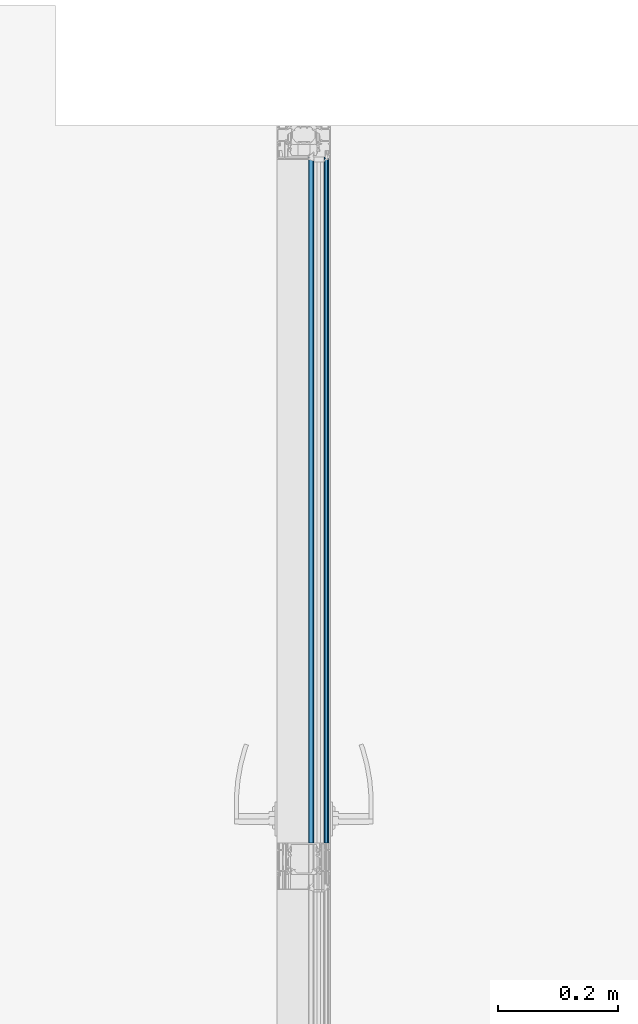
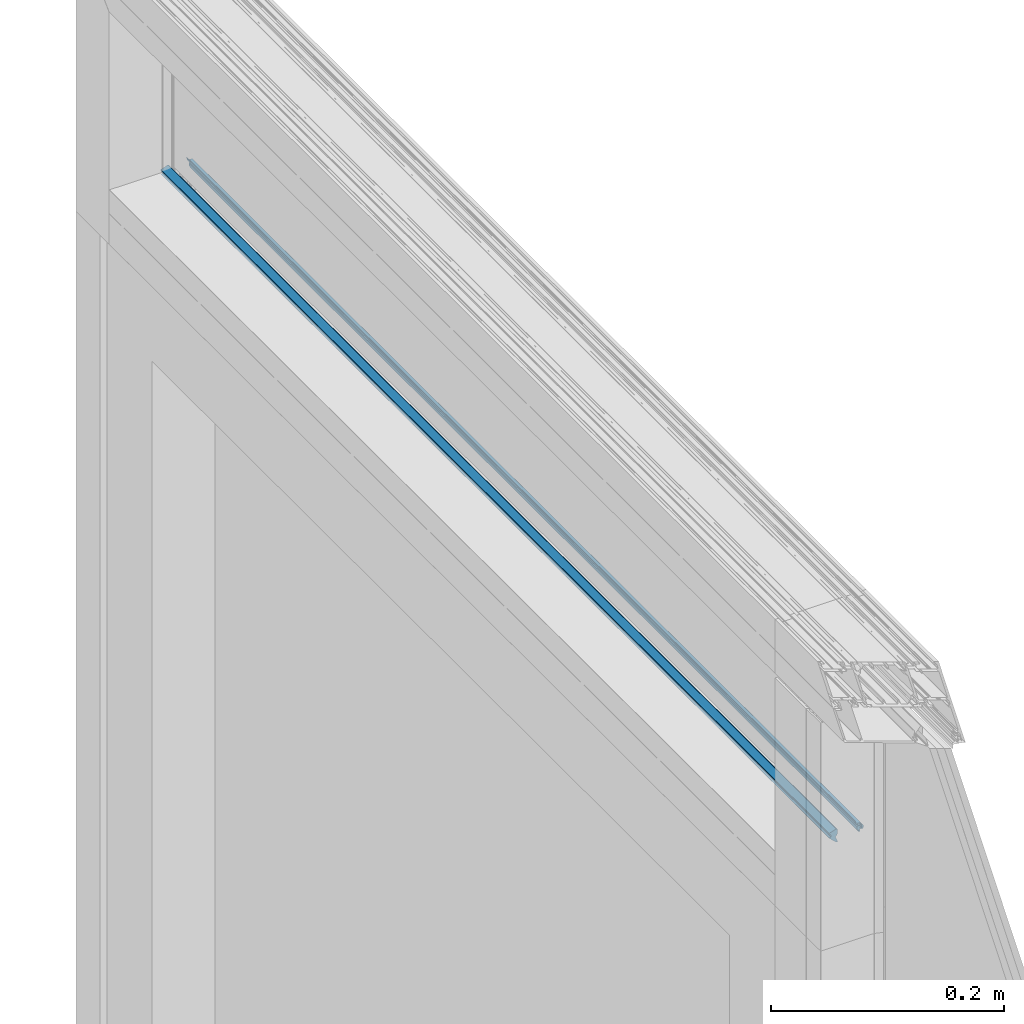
# One storey, part 18 of 65: 1 building element part, 2 elements without a shape of their own.
"""IFC2X3 building model written with IfcOpenShell, lengths in millimetres."""

from ifc_helpers import new_model, entity, si_unit, converted_unit, derived_unit, money_unit, direction, frame, origin_with_axes, place, context, subcontext, project, spatial, faceted_brep, source, transform, mapped, material, type_object, element, aggregate, save


model = new_model("IFC2X3")

# Units and contexts
model_context = context("Model", 3, precision=0.01, world=origin_with_axes(), true_north=direction((0.0, 1.0)))
body_context = subcontext(model_context, "Body", "Model", "MODEL_VIEW")
ifc_project = project(units=[si_unit("LENGTHUNIT", "METRE", prefix="MILLI"), si_unit("AREAUNIT", "SQUARE_METRE"), si_unit("VOLUMEUNIT", "CUBIC_METRE"), converted_unit("PLANEANGLEUNIT", "DEGREE", entity("IfcPlaneAngleMeasure", 0.0174532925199), si_unit("PLANEANGLEUNIT", "RADIAN"), dimensions=[0, 0, 0, 0, 0, 0, 0]), si_unit("SOLIDANGLEUNIT", "STERADIAN"), money_unit("EUR"), converted_unit("TIMEUNIT", "Year", entity("IfcTimeMeasure", 31556926.0), si_unit("TIMEUNIT", "SECOND"), dimensions=[0, 0, 1, 0, 0, 0, 0]), si_unit("MASSUNIT", "GRAM", prefix="KILO"), si_unit("THERMODYNAMICTEMPERATUREUNIT", "DEGREE_CELSIUS"), si_unit("LUMINOUSINTENSITYUNIT", "LUMEN"), si_unit("ENERGYUNIT", "JOULE", prefix="MEGA"), derived_unit("THERMALCONDUCTANCEUNIT", [(si_unit("POWERUNIT", "WATT"), 1), (si_unit("LENGTHUNIT", "METRE"), -1), (si_unit("THERMODYNAMICTEMPERATUREUNIT", "KELVIN"), -1)]), derived_unit("SPECIFICHEATCAPACITYUNIT", [(si_unit("ENERGYUNIT", "JOULE"), 1), (si_unit("MASSUNIT", "GRAM", prefix="KILO"), -1), (si_unit("THERMODYNAMICTEMPERATUREUNIT", "KELVIN"), -1)]), derived_unit("MASSDENSITYUNIT", [(si_unit("MASSUNIT", "GRAM", prefix="KILO"), 1), (si_unit("VOLUMEUNIT", "CUBIC_METRE"), -1)])], contexts=[model_context])

# Site, building, storey
site_placement = place(None, origin_with_axes())
site = spatial("IfcSite", under=ifc_project, at=site_placement, Name="Puškini 31, Narva", CompositionType="ELEMENT")
building_placement = place(site_placement, origin_with_axes())
building = spatial("IfcBuilding", under=site, at=building_placement, Name="Narva Riigigümnaasium", CompositionType="ELEMENT")
storey_placement = place(building_placement, frame((0.0, 0.0, -1320.0), z_axis=(0.0, 0.0, 1.0), x_axis=(1.0, 0.0, 0.0)))
storey = spatial("IfcBuildingStorey", under=building, at=storey_placement, Name="1.korrus -1.32", CompositionType="ELEMENT", Elevation=-1320.0)

# Curtain wall, member, building element part
curtain_wall_type = type_object("IfcCurtainWallType", Name="Curtain Wall Type", PredefinedType="NOTDEFINED")
curtain_wall_placement = place(storey_placement, frame((28354.9542923, 194209.397521, 0.0), z_axis=(0.0, 0.0, 1.0), x_axis=(1.0, 0.0, 0.0)))
curtain_wall = element("IfcCurtainWall", 1, at=curtain_wall_placement, inside=storey, type_object=curtain_wall_type, Name="G-SKLF-07")
member_type = type_object("IfcMemberType", Name="61 x 45", PredefinedType="MULLION")
member_placement = place(curtain_wall_placement, frame((-0.00287447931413, -709.401652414, 2400.0), z_axis=(4.05197719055e-06, 0.999999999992, 0.0), x_axis=(0.0, 0.0, 1.0)))
member = element("IfcMember", 2, at=member_placement, type_object=member_type, Name="G-SKLF-07-raam", ObjectType="MULLION")
aggregate(curtain_wall, [member])
ifc_material = material(Name="Membraan - Veekindel")
shared_shape = source(origin_with_axes(), body_context, "Body", "Brep", [
    faceted_brep([(61.0413385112, 34.3890442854, 0.0), (59.5800222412, 34.73794757, 0.0), (59.5800222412, 34.73794757, 1146.80413105), (61.0413385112, 34.3890442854, 1146.80413105), (61.1536677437, 34.1934467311, 0.0), (61.1423164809, 33.9681748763, 0.0), (61.0108941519, 33.784859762, 0.0), (60.7381535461, 33.9217644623, 0.0), (59.8409257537, 34.1343131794, 0.0), (58.2346494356, 34.5489145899, 0.0), (56.9567944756, 35.6067920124, 0.0), (56.2495873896, 37.1074172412, 0.0), (56.1542959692, 37.3107917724, 0.0), (55.9795989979, 37.4519392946, 0.0), (55.7607444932, 37.5023809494, 0.0), (55.1093263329, 37.5023809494, 0.0), (54.8593263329, 37.4353936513, 0.0), (54.676313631, 37.2523809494, 0.0), (54.2721684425, 36.5523809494, 0.0), (54.0891557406, 36.3693682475, 0.0), (53.8391557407, 36.3023809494, 0.0), (51.602145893, 36.3023809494, 0.0), (51.352145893, 36.3693682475, 0.0), (51.1691331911, 36.5523809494, 0.0), (50.7649880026, 37.2523809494, 0.0), (50.5819753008, 37.4353936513, 0.0), (50.3319753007, 37.5023809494, 0.0), (49.2206527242, 37.5023809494, 0.0), (48.9706527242, 37.5693682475, 0.0), (48.7876400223, 37.7523809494, 0.0), (48.7206527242, 38.0023809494, 0.0), (48.7206527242, 39.1999494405, 0.0), (50.10004, 39.1999494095, 0.0), (50.1670287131, 38.9499497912, 0.0), (50.3500424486, 38.7669381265, 0.0), (50.6000428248, 38.699952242, 0.0), (50.8500424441, 38.7669409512, 0.0), (51.0330541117, 38.9499546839, 0.0), (51.10004, 39.1999550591, 0.0), (51.10004, 40.4999366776, 0.0), (51.0598476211, 40.6499366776, 0.0), (50.95004, 40.7597442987, 0.0), (50.80004, 40.7999366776, 0.0), (50.7000457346, 40.7999366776, 0.0), (50.5334025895, 40.8504763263, 0.0), (50.4229059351, 40.9850671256, 0.0), (50.4057850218, 41.1583618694, 0.0), (50.4878083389, 41.3119729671, 0.0), (51.5281601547, 42.3533311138, 0.0), (51.6904310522, 42.4618421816, 0.0), (51.8818844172, 42.4999486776, 0.0), (53.517932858, 42.4999486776, 0.0), (53.7093558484, 42.4618547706, 0.0), (53.8716106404, 42.3533776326, 0.0), (54.9122350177, 41.3120206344, 0.0), (54.9942836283, 41.1584047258, 0.0), (54.9771753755, 40.9850924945, 0.0), (54.866675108, 40.850483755, 0.0), (54.7000173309, 40.7999366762, 0.0), (54.6000210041, 40.7999366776, 0.0), (54.4500210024, 40.7597443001, 0.0), (54.3402133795, 40.6499366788, 0.0), (54.300021, 40.4999366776, 0.0), (54.300021, 39.1999606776, 0.0), (54.3670082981, 38.9499606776, 0.0), (54.5500210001, 38.7669479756, 0.0), (54.8000210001, 38.6999606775, 0.0), (55.0500210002, 38.7669479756, 0.0), (55.2330337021, 38.9499606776, 0.0), (55.3000210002, 39.1999606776, 0.0), (57.3000022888, 39.1999494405, 0.0), (57.3000022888, 39.9999846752, 0.0), (57.5000161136, 39.946391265, 0.0), (57.6464370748, 39.799971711, 0.0), (57.7000324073, 39.5999584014, 0.0), (57.9693613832, 36.5265882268, 0.0), (58.4755028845, 35.3628499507, 0.0), (53.5000340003, 40.7999553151, 0.0), (53.4330491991, 41.0499459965, 0.0), (53.2500433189, 41.2329518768, 0.0), (53.0000526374, 41.299936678, 0.0), (52.4000083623, 41.299936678, 0.0), (52.150017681, 41.2329518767, 0.0), (51.9670118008, 41.0499459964, 0.0), (51.9000269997, 40.799955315, 0.0), (51.9000269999, 39.6999268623, 0.0), (51.9670129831, 39.4499317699, 0.0), (52.1500220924, 39.2669226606, 0.0), (52.4000171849, 39.1999366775, 0.0), (53.0000438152, 39.1999366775, 0.0), (53.2500389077, 39.2669226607, 0.0), (53.433048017, 39.44993177, 0.0), (58.4755028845, 35.3628499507, 1146.80413105), (57.9693613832, 36.5265882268, 1146.80413105), (57.7000324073, 39.5999584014, 1146.80413105), (57.6464370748, 39.799971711, 1146.80413105), (57.5000161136, 39.946391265, 1146.80413105), (57.3000022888, 39.9999846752, 1146.80413105), (57.3000022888, 39.1999494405, 1146.80413105), (55.3000210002, 39.1999606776, 1146.80413105), (55.2330337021, 38.9499606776, 1146.80413105), (55.0500210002, 38.7669479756, 1146.80413105), (54.8000210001, 38.6999606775, 1146.80413105), (54.5500210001, 38.7669479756, 1146.80413105), (54.3670082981, 38.9499606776, 1146.80413105), (54.300021, 39.1999606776, 1146.80413105), (54.300021, 40.4999366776, 1146.80413105), (54.3402133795, 40.6499366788, 1146.80413105), (54.4500210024, 40.7597443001, 1146.80413105), (54.6000210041, 40.7999366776, 1146.80413105), (54.7000173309, 40.7999366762, 1146.80413105), (54.866675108, 40.850483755, 1146.80413105), (54.9771753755, 40.9850924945, 1146.80413105), (54.9942836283, 41.1584047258, 1146.80413105), (54.9122350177, 41.3120206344, 1146.80413105), (53.8716106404, 42.3533776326, 1146.80413105), (53.7093558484, 42.4618547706, 1146.80413105), (53.517932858, 42.4999486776, 1146.80413105), (51.8818844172, 42.4999486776, 1146.80413105), (51.6904310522, 42.4618421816, 1146.80413105), (51.5281601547, 42.3533311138, 1146.80413105), (50.4878083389, 41.3119729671, 1146.80413105), (50.4057850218, 41.1583618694, 1146.80413105), (50.4229059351, 40.9850671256, 1146.80413105), (50.5334025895, 40.8504763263, 1146.80413105), (50.7000457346, 40.7999366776, 1146.80413105), (50.80004, 40.7999366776, 1146.80413105), (50.95004, 40.7597442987, 1146.80413105), (51.0598476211, 40.6499366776, 1146.80413105), (51.10004, 40.4999366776, 1146.80413105), (51.10004, 39.1999550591, 1146.80413105), (51.0330541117, 38.9499546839, 1146.80413105), (50.8500424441, 38.7669409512, 1146.80413105), (50.6000428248, 38.699952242, 1146.80413105), (50.3500424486, 38.7669381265, 1146.80413105), (50.1670287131, 38.9499497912, 1146.80413105), (50.10004, 39.1999494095, 1146.80413105), (48.7206527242, 39.1999494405, 1146.80413105), (48.7206527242, 38.0023809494, 1146.80413105), (48.7876400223, 37.7523809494, 1146.80413105), (48.9706527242, 37.5693682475, 1146.80413105), (49.2206527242, 37.5023809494, 1146.80413105), (50.3319753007, 37.5023809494, 1146.80413105), (50.5819753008, 37.4353936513, 1146.80413105), (50.7649880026, 37.2523809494, 1146.80413105), (51.1691331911, 36.5523809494, 1146.80413105), (51.352145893, 36.3693682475, 1146.80413105), (51.602145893, 36.3023809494, 1146.80413105), (53.8391557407, 36.3023809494, 1146.80413105), (54.0891557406, 36.3693682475, 1146.80413105), (54.2721684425, 36.5523809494, 1146.80413105), (54.676313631, 37.2523809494, 1146.80413105), (54.8593263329, 37.4353936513, 1146.80413105), (55.1093263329, 37.5023809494, 1146.80413105), (55.7607444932, 37.5023809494, 1146.80413105), (55.9795989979, 37.4519392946, 1146.80413105), (56.1542959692, 37.3107917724, 1146.80413105), (56.2495873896, 37.1074172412, 1146.80413105), (56.9567944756, 35.6067920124, 1146.80413105), (58.2346494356, 34.5489145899, 1146.80413105), (59.8409257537, 34.1343131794, 1146.80413105), (60.7381535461, 33.9217644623, 1146.80413105), (61.0108941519, 33.784859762, 1146.80413105), (61.1423164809, 33.9681748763, 1146.80413105), (61.1536677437, 34.1934467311, 1146.80413105), (53.5000340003, 40.7999553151, 1146.80413105), (53.433048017, 39.44993177, 1146.80413105), (53.2500389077, 39.2669226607, 1146.80413105), (53.0000438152, 39.1999366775, 1146.80413105), (52.4000171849, 39.1999366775, 1146.80413105), (52.1500220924, 39.2669226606, 1146.80413105), (51.9670129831, 39.4499317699, 1146.80413105), (51.9000269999, 39.6999268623, 1146.80413105), (51.9000269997, 40.799955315, 1146.80413105), (51.9670118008, 41.0499459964, 1146.80413105), (52.150017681, 41.2329518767, 1146.80413105), (52.4000083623, 41.299936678, 1146.80413105), (53.0000526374, 41.299936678, 1146.80413105), (53.2500433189, 41.2329518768, 1146.80413105), (53.4330491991, 41.0499459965, 1146.80413105)], [[[0, 1, 2, 3]], [[0, 4, 5, 6, 7, 8, 9, 10, 11, 12, 13, 14, 15, 16, 17, 18, 19, 20, 21, 22, 23, 24, 25, 26, 27, 28, 29, 30, 31, 32, 33, 34, 35, 36, 37, 38, 39, 40, 41, 42, 43, 44, 45, 46, 47, 48, 49, 50, 51, 52, 53, 54, 55, 56, 57, 58, 59, 60, 61, 62, 63, 64, 65, 66, 67, 68, 69, 70, 71, 72, 73, 74, 75, 76, 1], [77, 78, 79, 80, 81, 82, 83, 84, 85, 86, 87, 88, 89, 90, 91]], [[1, 76, 92, 2]], [[3, 2, 92, 93, 94, 95, 96, 97, 98, 99, 100, 101, 102, 103, 104, 105, 106, 107, 108, 109, 110, 111, 112, 113, 114, 115, 116, 117, 118, 119, 120, 121, 122, 123, 124, 125, 126, 127, 128, 129, 130, 131, 132, 133, 134, 135, 136, 137, 138, 139, 140, 141, 142, 143, 144, 145, 146, 147, 148, 149, 150, 151, 152, 153, 154, 155, 156, 157, 158, 159, 160, 161, 162, 163, 164], [165, 166, 167, 168, 169, 170, 171, 172, 173, 174, 175, 176, 177, 178, 179]], [[4, 0, 3, 164]], [[5, 4, 164, 163]], [[6, 5, 163, 162]], [[7, 6, 162, 161]], [[8, 7, 161, 160]], [[9, 8, 160, 159]], [[10, 9, 159, 158]], [[11, 10, 158, 157]], [[12, 11, 157, 156]], [[13, 12, 156, 155]], [[14, 13, 155, 154]], [[15, 14, 154, 153]], [[16, 15, 153, 152]], [[17, 16, 152, 151]], [[18, 17, 151, 150]], [[19, 18, 150, 149]], [[20, 19, 149, 148]], [[21, 20, 148, 147]], [[22, 21, 147, 146]], [[23, 22, 146, 145]], [[24, 23, 145, 144]], [[25, 24, 144, 143]], [[26, 25, 143, 142]], [[27, 26, 142, 141]], [[28, 27, 141, 140]], [[29, 28, 140, 139]], [[30, 29, 139, 138]], [[31, 30, 138, 137]], [[32, 31, 137, 136]], [[33, 32, 136, 135]], [[34, 33, 135, 134]], [[35, 34, 134, 133]], [[36, 35, 133, 132]], [[37, 36, 132, 131]], [[38, 37, 131, 130]], [[39, 38, 130, 129]], [[40, 39, 129, 128]], [[41, 40, 128, 127]], [[42, 41, 127, 126]], [[43, 42, 126, 125]], [[44, 43, 125, 124]], [[45, 44, 124, 123]], [[46, 45, 123, 122]], [[47, 46, 122, 121]], [[48, 47, 121, 120]], [[49, 48, 120, 119]], [[50, 49, 119, 118]], [[51, 50, 118, 117]], [[52, 51, 117, 116]], [[53, 52, 116, 115]], [[54, 53, 115, 114]], [[55, 54, 114, 113]], [[56, 55, 113, 112]], [[57, 56, 112, 111]], [[58, 57, 111, 110]], [[59, 58, 110, 109]], [[60, 59, 109, 108]], [[61, 60, 108, 107]], [[62, 61, 107, 106]], [[63, 62, 106, 105]], [[64, 63, 105, 104]], [[65, 64, 104, 103]], [[66, 65, 103, 102]], [[67, 66, 102, 101]], [[68, 67, 101, 100]], [[69, 68, 100, 99]], [[70, 69, 99, 98]], [[71, 70, 98, 97]], [[72, 71, 97, 96]], [[73, 72, 96, 95]], [[74, 73, 95, 94]], [[75, 74, 94, 93]], [[76, 75, 93, 92]], [[78, 77, 165, 179]], [[79, 78, 179, 178]], [[80, 79, 178, 177]], [[81, 80, 177, 176]], [[82, 81, 176, 175]], [[83, 82, 175, 174]], [[84, 83, 174, 173]], [[85, 84, 173, 172]], [[86, 85, 172, 171]], [[87, 86, 171, 170]], [[88, 87, 170, 169]], [[89, 88, 169, 168]], [[90, 89, 168, 167]], [[91, 90, 167, 166]], [[77, 91, 166, 165]]]),
    faceted_brep([(59.0307115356, 16.554149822, 0.0), (55.9926715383, 16.8063498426, 0.0), (55.9926715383, 16.8063498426, 1146.80413105), (59.0307115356, 16.554149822, 1146.80413105), (59.3884652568, 16.1092618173, 0.0), (59.5001582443, 15.5494067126, 0.0), (59.3405112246, 15.0012955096, 0.0), (57.5418652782, 10.0035930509, 0.0), (57.2632233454, 8.46932121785, 0.0), (57.1824204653, 8.36745448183, 0.0), (57.0661058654, 8.3093438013, 0.0), (56.9361285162, 8.30590490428, 0.0), (55.5361285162, 8.57803733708, 0.0), (55.4168250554, 8.62997353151, 0.0), (55.3307332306, 8.72753828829, 0.0), (55.2940485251, 8.85237785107, 0.0), (55.4099827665, 9.81272116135, 0.0), (55.3838261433, 9.9780831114, 0.0), (55.2731258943, 10.1036784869, 0.0), (55.1123574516, 10.1503930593, 0.0), (53.0580290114, 10.1503930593, 0.0), (52.8859560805, 10.0961386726, 0.0), (52.7761212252, 9.95299910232, 0.0), (52.3556584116, 8.79778701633, 0.0), (52.2574645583, 8.66326410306, 0.0), (52.1026310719, 8.60190419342, 0.0), (51.938943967, 8.6326446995, 0.0), (51.8169217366, 8.74599822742, 0.0), (45.6142070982, 15.4144760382, 0.0), (45.3418968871, 15.7688623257, 0.0), (45.3195226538, 16.2152275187, 0.0), (45.3889077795, 16.3899097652, 0.0), (45.6241929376, 16.6482027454, 0.0), (45.950966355, 16.7718696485, 0.0), (46.298307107, 16.7340705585, 0.0), (50.5536994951, 15.2121179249, 0.0), (50.8437237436, 15.0307134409, 0.0), (51.0558924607, 14.9074036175, 0.0), (51.3011765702, 14.8998814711, 0.0), (51.5205025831, 15.0099586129, 0.0), (53.1225200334, 16.3483062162, 0.0), (53.7899070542, 16.6230039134, 0.0), (53.7899070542, 16.6230039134, 1146.80413105), (53.1225200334, 16.3483062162, 1146.80413105), (51.5205025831, 15.0099586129, 1146.80413105), (51.3011765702, 14.8998814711, 1146.80413105), (51.0558924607, 14.9074036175, 1146.80413105), (50.8437237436, 15.0307134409, 1146.80413105), (50.5536994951, 15.2121179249, 1146.80413105), (46.298307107, 16.7340705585, 1146.80413105), (45.950966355, 16.7718696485, 1146.80413105), (45.6241929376, 16.6482027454, 1146.80413105), (45.3889077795, 16.3899097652, 1146.80413105), (45.3195226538, 16.2152275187, 1146.80413105), (45.3418968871, 15.7688623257, 1146.80413105), (45.6142070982, 15.4144760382, 1146.80413105), (51.8169217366, 8.74599822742, 1146.80413105), (51.938943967, 8.6326446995, 1146.80413105), (52.1026310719, 8.60190419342, 1146.80413105), (52.2574645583, 8.66326410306, 1146.80413105), (52.3556584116, 8.79778701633, 1146.80413105), (52.7761212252, 9.95299910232, 1146.80413105), (52.8859560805, 10.0961386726, 1146.80413105), (53.0580290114, 10.1503930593, 1146.80413105), (55.1123574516, 10.1503930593, 1146.80413105), (55.2731258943, 10.1036784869, 1146.80413105), (55.3838261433, 9.9780831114, 1146.80413105), (55.4099827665, 9.81272116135, 1146.80413105), (55.2940485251, 8.85237785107, 1146.80413105), (55.3307332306, 8.72753828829, 1146.80413105), (55.4168250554, 8.62997353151, 1146.80413105), (55.5361285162, 8.57803733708, 1146.80413105), (56.9361285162, 8.30590490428, 1146.80413105), (57.0661058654, 8.3093438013, 1146.80413105), (57.1824204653, 8.36745448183, 1146.80413105), (57.2632233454, 8.46932121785, 1146.80413105), (57.5418652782, 10.0035930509, 1146.80413105), (59.3405112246, 15.0012955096, 1146.80413105), (59.5001582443, 15.5494067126, 1146.80413105), (59.3884652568, 16.1092618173, 1146.80413105)], [[[0, 1, 2, 3]], [[0, 4, 5, 6, 7, 8, 9, 10, 11, 12, 13, 14, 15, 16, 17, 18, 19, 20, 21, 22, 23, 24, 25, 26, 27, 28, 29, 30, 31, 32, 33, 34, 35, 36, 37, 38, 39, 40, 41, 1]], [[1, 41, 42, 2]], [[3, 2, 42, 43, 44, 45, 46, 47, 48, 49, 50, 51, 52, 53, 54, 55, 56, 57, 58, 59, 60, 61, 62, 63, 64, 65, 66, 67, 68, 69, 70, 71, 72, 73, 74, 75, 76, 77, 78, 79]], [[4, 0, 3, 79]], [[5, 4, 79, 78]], [[6, 5, 78, 77]], [[7, 6, 77, 76]], [[8, 7, 76, 75]], [[9, 8, 75, 74]], [[10, 9, 74, 73]], [[11, 10, 73, 72]], [[12, 11, 72, 71]], [[13, 12, 71, 70]], [[14, 13, 70, 69]], [[15, 14, 69, 68]], [[16, 15, 68, 67]], [[17, 16, 67, 66]], [[18, 17, 66, 65]], [[19, 18, 65, 64]], [[20, 19, 64, 63]], [[21, 20, 63, 62]], [[22, 21, 62, 61]], [[23, 22, 61, 60]], [[24, 23, 60, 59]], [[25, 24, 59, 58]], [[26, 25, 58, 57]], [[27, 26, 57, 56]], [[28, 27, 56, 55]], [[29, 28, 55, 54]], [[30, 29, 54, 53]], [[31, 30, 53, 52]], [[32, 31, 52, 51]], [[33, 32, 51, 50]], [[34, 33, 50, 49]], [[35, 34, 49, 48]], [[36, 35, 48, 47]], [[37, 36, 47, 46]], [[38, 37, 46, 45]], [[39, 38, 45, 44]], [[40, 39, 44, 43]], [[41, 40, 43, 42]]]),
])
building_element_part_placement = place(member_placement, origin_with_axes())
building_element_part = element("IfcBuildingElementPart", 3, at=building_element_part_placement, material=ifc_material, Name="Membraan - Veekindel", context=body_context, shape_type="MappedRepresentation", body=[
    mapped(shared_shape, transform((0.0, 0.0, 0.0))),
])
aggregate(member, [building_element_part])

save(model, "model.ifc")
